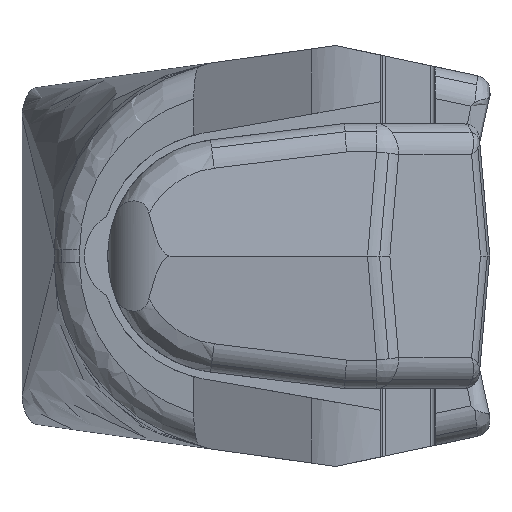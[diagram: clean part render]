
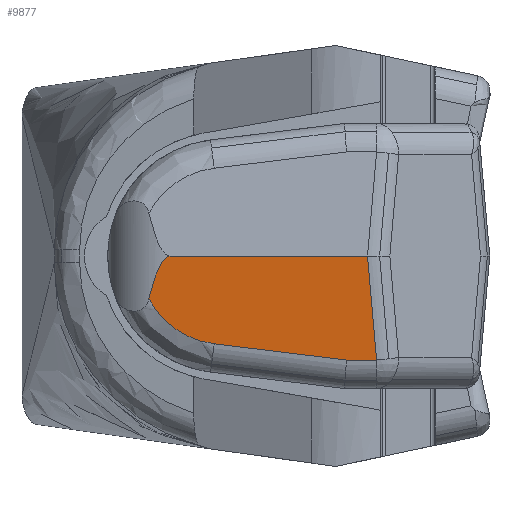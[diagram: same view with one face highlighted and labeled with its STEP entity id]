
A CAD part, left-side view. The second image highlights one B-rep face of the part: STEP entity #9877.
In plain terms, the highlighted planar face has unit normal (-0.996, 0, -0.087).
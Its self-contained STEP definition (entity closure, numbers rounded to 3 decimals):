
#8471=CARTESIAN_POINT('',(-59.016,0.271,6.826));
#8472=VERTEX_POINT('',#8471);
#8593=CARTESIAN_POINT('',(-59.6,0.854,13.5));
#8594=VERTEX_POINT('',#8593);
#8635=CARTESIAN_POINT('',(-59.016,0.271,6.826));
#8636=DIRECTION('',(-0.087,0.087,0.992));
#8637=VECTOR('',#8636,6.725);
#8638=LINE('',#8635,#8637);
#8639=EDGE_CURVE('',#8594,#8472,#8638,.F.);
#8652=CARTESIAN_POINT('',(-59.016,2.21,6.826));
#8653=VERTEX_POINT('',#8652);
#8654=CARTESIAN_POINT('',(-59.016,2.21,6.826));
#8655=DIRECTION('',(0.0,-1.0,0.0));
#8656=VECTOR('',#8655,1.94);
#8657=LINE('',#8654,#8656);
#8658=EDGE_CURVE('',#8472,#8653,#8657,.F.);
#8853=CARTESIAN_POINT('',(-59.107,10.689,7.867));
#8854=VERTEX_POINT('',#8853);
#8855=CARTESIAN_POINT('',(-59.107,10.689,7.867));
#8856=DIRECTION('',(0.011,-0.992,-0.122));
#8857=VECTOR('',#8856,8.542);
#8858=LINE('',#8855,#8857);
#8859=EDGE_CURVE('',#8653,#8854,#8858,.F.);
#9004=CARTESIAN_POINT('',(-59.36,14.883,10.759));
#9005=VERTEX_POINT('',#9004);
#9036=CARTESIAN_POINT('',(-59.585,10.018,13.326));
#9037=DIRECTION('',(0.996,0.,0.087));
#9038=DIRECTION('',(0.087,0.,-0.996));
#9039=AXIS2_PLACEMENT_3D('',#9036,#9037,#9038);
#9040=ELLIPSE('',#9039,5.521,5.5);
#9041=EDGE_CURVE('',#8854,#9005,#9040,.T.);
#9851=CARTESIAN_POINT('',(-59.228,8.791,9.25));
#9852=DIRECTION('',(-0.996,0.,-0.087));
#9853=DIRECTION('',(-0.087,0.,0.996));
#9854=AXIS2_PLACEMENT_3D('',#9851,#9852,#9853);
#9855=PLANE('',#9854);
#9856=ORIENTED_EDGE('',*,*,#8639,.F.);
#9857=CARTESIAN_POINT('',(-59.6,13.518,13.5));
#9858=VERTEX_POINT('',#9857);
#9859=CARTESIAN_POINT('',(-59.6,13.518,13.5));
#9860=DIRECTION('',(0.0,-1.0,0.0));
#9861=VECTOR('',#9860,12.664);
#9862=LINE('',#9859,#9861);
#9863=EDGE_CURVE('',#9858,#8594,#9862,.T.);
#9864=ORIENTED_EDGE('',*,*,#9863,.F.);
#9865=CARTESIAN_POINT('',(-55.6,13.518,-32.22));
#9866=DIRECTION('',(-0.996,0.,-0.087));
#9867=DIRECTION('',(-0.087,0.,0.996));
#9868=AXIS2_PLACEMENT_3D('',#9865,#9866,#9867);
#9869=ELLIPSE('',#9868,45.895,4.);
#9870=EDGE_CURVE('',#9858,#9005,#9869,.T.);
#9871=ORIENTED_EDGE('',*,*,#9870,.T.);
#9872=ORIENTED_EDGE('',*,*,#9041,.F.);
#9873=ORIENTED_EDGE('',*,*,#8859,.F.);
#9874=ORIENTED_EDGE('',*,*,#8658,.F.);
#9875=EDGE_LOOP('',(#9856,#9864,#9871,#9872,#9873,#9874));
#9876=FACE_OUTER_BOUND('',#9875,.T.);
#9877=ADVANCED_FACE('',(#9876),#9855,.T.);
